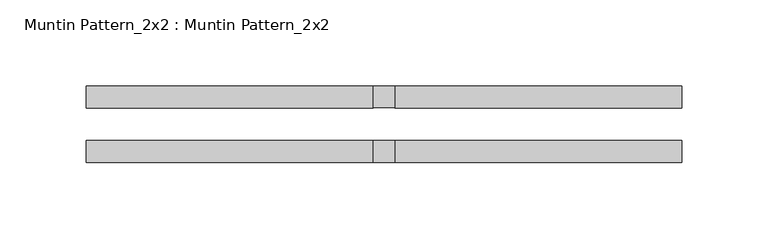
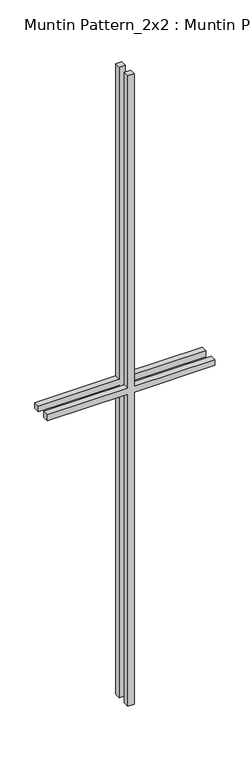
"""IFC4 building model written with IfcOpenShell, lengths in millimetres: proxy geometry, Muntin Pattern_2x2 : Muntin Pattern_2x2."""

from ifc_helpers import new_model, si_unit, frame, origin, place, context, project, spatial, polyline, outline, extrude, source, transform, mapped, element, save


def muntin_pattern_2x2_muntin_pattern_2x2_1228b40f(model_context):
    return source(origin(), model_context, "Body", "SweptSolid", [
        extrude(outline(polyline([(695.325, -6.35), (695.325, -173.0375), (682.625, -173.0375), (682.625, -6.35), (0.0, -6.35), (0.0, 6.35), (682.625, 6.35), (682.625, 173.0375), (695.325, 173.0375), (695.325, 6.35), (1377.95, 6.35), (1377.95, -6.35), (695.325, -6.35)])), frame((0.0, 9.525, 0.0), z_axis=(0.0, 1.0, 0.0), x_axis=(0.0, 0.0, 1.0)), (0.0, 0.0, 1.0), 12.7),
        extrude(outline(polyline([(695.325, -6.35), (695.325, -173.0375), (682.625, -173.0375), (682.625, -6.35), (0.0, -6.35), (0.0, 6.35), (682.625, 6.35), (682.625, 173.0375), (695.325, 173.0375), (695.325, 6.35), (1377.95, 6.35), (1377.95, -6.35), (695.325, -6.35)])), frame((0.0, -22.225, 0.0), z_axis=(0.0, 1.0, 0.0), x_axis=(0.0, 0.0, 1.0)), (0.0, 0.0, 1.0), 12.7),
    ])


if __name__ == "__main__":
    model = new_model("IFC4")
    model_context = context("Model", 3, world=origin())
    ifc_project = project(units=[si_unit("LENGTHUNIT", "METRE", prefix="MILLI")], contexts=[model_context])
    site = spatial("IfcSite", under=ifc_project)
    building = spatial("IfcBuilding", under=site)
    placement = place(None, origin())
    muntin_pattern_2x2_muntin_pattern_2x2_shape = muntin_pattern_2x2_muntin_pattern_2x2_1228b40f(model_context)
    element("IfcBuildingElementProxy", 1, Name="Muntin Pattern_2x2 : Muntin Pattern_2x2", ObjectType="Muntin Pattern_2x2 : Muntin Pattern_2x2", at=placement, inside=building, context=model_context, shape_type="MappedRepresentation", body=[
        mapped(muntin_pattern_2x2_muntin_pattern_2x2_shape, transform((0.0, 0.0, 0.0), x_axis=(1.0, 0.0, 0.0), y_axis=(0.0, 1.0, 0.0), z_axis=(0.0, 0.0, 1.0))),
    ])
    save(model, "model.ifc")
